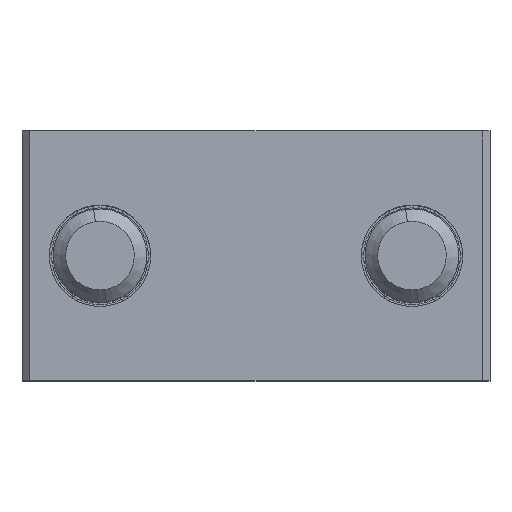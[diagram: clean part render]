
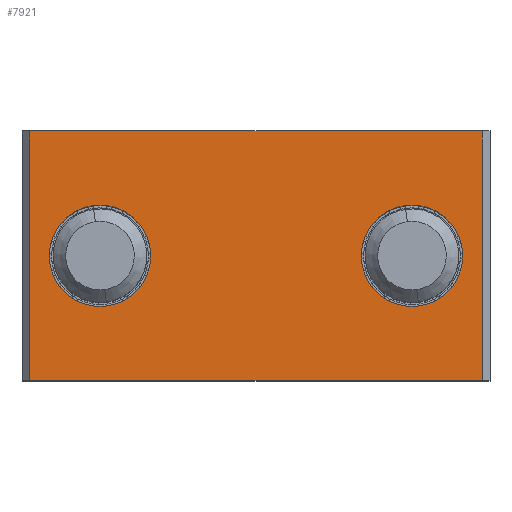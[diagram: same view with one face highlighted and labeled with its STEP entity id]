
A CAD part, top view. The second image highlights one B-rep face of the part: STEP entity #7921.
In plain terms, the highlighted planar face has unit normal (0, 0, 1).
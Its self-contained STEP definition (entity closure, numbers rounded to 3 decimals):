
#52 = CARTESIAN_POINT ( 'NONE',  ( 32.893, 14.693, 8. ) ) ;
#427 = ORIENTED_EDGE ( 'NONE', *, *, #12430, .F. ) ;
#788 = CARTESIAN_POINT ( 'NONE',  ( 37.393, 19.443, 8. ) ) ;
#951 = AXIS2_PLACEMENT_3D ( 'NONE', #15891, #16014, #16194 ) ;
#960 = DIRECTION ( 'NONE',  ( 0., 0., 1. ) ) ;
#1074 = LINE ( 'NONE', #7829, #15156 ) ;
#1145 = EDGE_CURVE ( 'NONE', #6601, #7232, #1228, .T. ) ;
#1228 = CIRCLE ( 'NONE', #951, 3.25 ) ;
#2438 = ORIENTED_EDGE ( 'NONE', *, *, #11928, .F. ) ;
#2637 = FACE_BOUND ( 'NONE', #5635, .T. ) ;
#2702 = AXIS2_PLACEMENT_3D ( 'NONE', #6158, #15665, #7526 ) ;
#3061 = FACE_BOUND ( 'NONE', #16527, .T. ) ;
#3092 = LINE ( 'NONE', #16881, #17175 ) ;
#3108 = ORIENTED_EDGE ( 'NONE', *, *, #13488, .F. ) ;
#3587 = ORIENTED_EDGE ( 'NONE', *, *, #1145, .F. ) ;
#3812 = CARTESIAN_POINT ( 'NONE',  ( 32.893, 30.693, 8. ) ) ;
#4322 = CARTESIAN_POINT ( 'NONE',  ( 57.393, 25.943, 8. ) ) ;
#5187 = CIRCLE ( 'NONE', #9661, 3.25 ) ;
#5189 = ORIENTED_EDGE ( 'NONE', *, *, #13164, .F. ) ;
#5325 = LINE ( 'NONE', #6630, #8514 ) ;
#5572 = CARTESIAN_POINT ( 'NONE',  ( 57.393, 22.693, 8. ) ) ;
#5635 = EDGE_LOOP ( 'NONE', ( #3587, #427 ) ) ;
#6045 = CARTESIAN_POINT ( 'NONE',  ( 47.393, 14.693, 8. ) ) ;
#6158 = CARTESIAN_POINT ( 'NONE',  ( 61.893, 14.693, 8. ) ) ;
#6601 = VERTEX_POINT ( 'NONE', #14105 ) ;
#6617 = DIRECTION ( 'NONE',  ( 0., 0., 1. ) ) ;
#6630 = CARTESIAN_POINT ( 'NONE',  ( 32.893, 22.693, 8. ) ) ;
#6860 = CARTESIAN_POINT ( 'NONE',  ( 37.393, 25.943, 8. ) ) ;
#6927 = DIRECTION ( 'NONE',  ( 0., -1., 0. ) ) ;
#7232 = VERTEX_POINT ( 'NONE', #4322 ) ;
#7334 = DIRECTION ( 'NONE',  ( 1., 0., 0. ) ) ;
#7415 = DIRECTION ( 'NONE',  ( -1., 0., 0. ) ) ;
#7526 = DIRECTION ( 'NONE',  ( -1., 0., 0. ) ) ;
#7829 = CARTESIAN_POINT ( 'NONE',  ( 61.893, 22.693, 8. ) ) ;
#7921 = ADVANCED_FACE ( 'NONE', ( #2637, #3061, #13499 ), #8797, .F. ) ;
#8514 = VECTOR ( 'NONE', #17550, 1000. ) ;
#8534 = AXIS2_PLACEMENT_3D ( 'NONE', #14786, #6617, #16178 ) ;
#8797 = PLANE ( 'NONE',  #2702 ) ;
#9134 = CARTESIAN_POINT ( 'NONE',  ( 37.393, 22.693, 8. ) ) ;
#9160 = CIRCLE ( 'NONE', #8534, 3.25 ) ;
#9661 = AXIS2_PLACEMENT_3D ( 'NONE', #5572, #15080, #6927 ) ;
#9806 = EDGE_CURVE ( 'NONE', #12417, #15450, #5325, .T. ) ;
#10490 = DIRECTION ( 'NONE',  ( 0., -1., 0. ) ) ;
#10557 = VERTEX_POINT ( 'NONE', #11311 ) ;
#10856 = VECTOR ( 'NONE', #7415, 1000. ) ;
#11108 = ORIENTED_EDGE ( 'NONE', *, *, #9806, .F. ) ;
#11117 = CARTESIAN_POINT ( 'NONE',  ( 61.893, 14.693, 8. ) ) ;
#11311 = CARTESIAN_POINT ( 'NONE',  ( 61.893, 30.693, 8. ) ) ;
#11928 = EDGE_CURVE ( 'NONE', #15450, #10557, #3092, .T. ) ;
#12417 = VERTEX_POINT ( 'NONE', #52 ) ;
#12430 = EDGE_CURVE ( 'NONE', #7232, #6601, #5187, .T. ) ;
#12821 = EDGE_CURVE ( 'NONE', #10557, #14516, #1074, .T. ) ;
#12843 = AXIS2_PLACEMENT_3D ( 'NONE', #9134, #960, #10490 ) ;
#12909 = EDGE_LOOP ( 'NONE', ( #3108, #13768, #2438, #11108 ) ) ;
#13164 = EDGE_CURVE ( 'NONE', #14760, #13305, #9160, .T. ) ;
#13305 = VERTEX_POINT ( 'NONE', #6860 ) ;
#13488 = EDGE_CURVE ( 'NONE', #14516, #12417, #14473, .T. ) ;
#13499 = FACE_OUTER_BOUND ( 'NONE', #12909, .T. ) ;
#13768 = ORIENTED_EDGE ( 'NONE', *, *, #12821, .F. ) ;
#14105 = CARTESIAN_POINT ( 'NONE',  ( 57.393, 19.443, 8. ) ) ;
#14473 = LINE ( 'NONE', #6045, #10856 ) ;
#14516 = VERTEX_POINT ( 'NONE', #11117 ) ;
#14574 = CIRCLE ( 'NONE', #12843, 3.25 ) ;
#14655 = DIRECTION ( 'NONE',  ( 0., -1., 0. ) ) ;
#14760 = VERTEX_POINT ( 'NONE', #788 ) ;
#14786 = CARTESIAN_POINT ( 'NONE',  ( 37.393, 22.693, 8. ) ) ;
#15080 = DIRECTION ( 'NONE',  ( 0., 0., 1. ) ) ;
#15156 = VECTOR ( 'NONE', #14655, 1000. ) ;
#15450 = VERTEX_POINT ( 'NONE', #3812 ) ;
#15665 = DIRECTION ( 'NONE',  ( 0., 0., -1. ) ) ;
#15891 = CARTESIAN_POINT ( 'NONE',  ( 57.393, 22.693, 8. ) ) ;
#16014 = DIRECTION ( 'NONE',  ( 0., 0., 1. ) ) ;
#16178 = DIRECTION ( 'NONE',  ( 0., -1., 0. ) ) ;
#16194 = DIRECTION ( 'NONE',  ( 0., -1., 0. ) ) ;
#16448 = ORIENTED_EDGE ( 'NONE', *, *, #16611, .F. ) ;
#16527 = EDGE_LOOP ( 'NONE', ( #5189, #16448 ) ) ;
#16611 = EDGE_CURVE ( 'NONE', #13305, #14760, #14574, .T. ) ;
#16881 = CARTESIAN_POINT ( 'NONE',  ( 47.393, 30.693, 8. ) ) ;
#17175 = VECTOR ( 'NONE', #7334, 1000. ) ;
#17550 = DIRECTION ( 'NONE',  ( 0., 1., 0. ) ) ;
